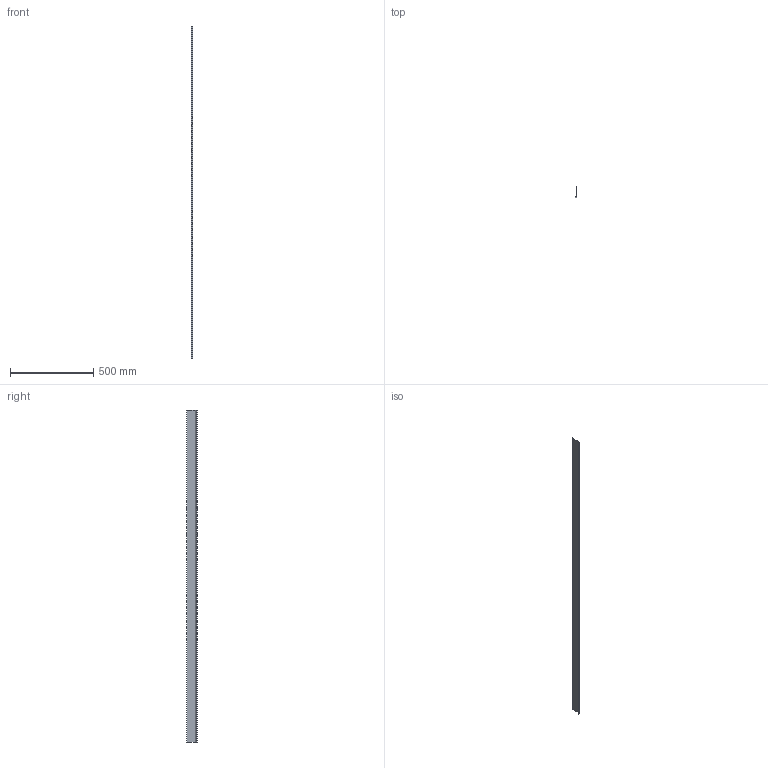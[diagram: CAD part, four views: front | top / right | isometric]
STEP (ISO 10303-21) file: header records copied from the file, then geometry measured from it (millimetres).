
FILE_DESCRIPTION (( 'STEP AP203' ), '1' );
FILE_NAME ('M10D.STEP', '2018-06-19T12:37:24', ( 'Michael Moliner' ), ( '' ), 'SwSTEP 2.0', 'SolidWorks 2018', '' );
FILE_SCHEMA (( 'CONFIG_CONTROL_DESIGN' ));
Length unit declared in the file: inch
Products named in the file (2): M10D
Bounding box: 10.42 x 63.69 x 2000 mm (x, y, z)
Volume: 77185.9 mm3; surface area: 305990.5 mm2
Topology: 1 solids, 1 shells, 14 faces, 36 edges, 24 vertices
Faces by surface type: plane 10, cylinder 4
Entity records: 585 total; most frequent: CARTESIAN_POINT 76, DIRECTION 76, ORIENTED_EDGE 72, EDGE_CURVE 36, VECTOR 28, LINE 28, AXIS2_PLACEMENT_3D 24, VERTEX_POINT 24
